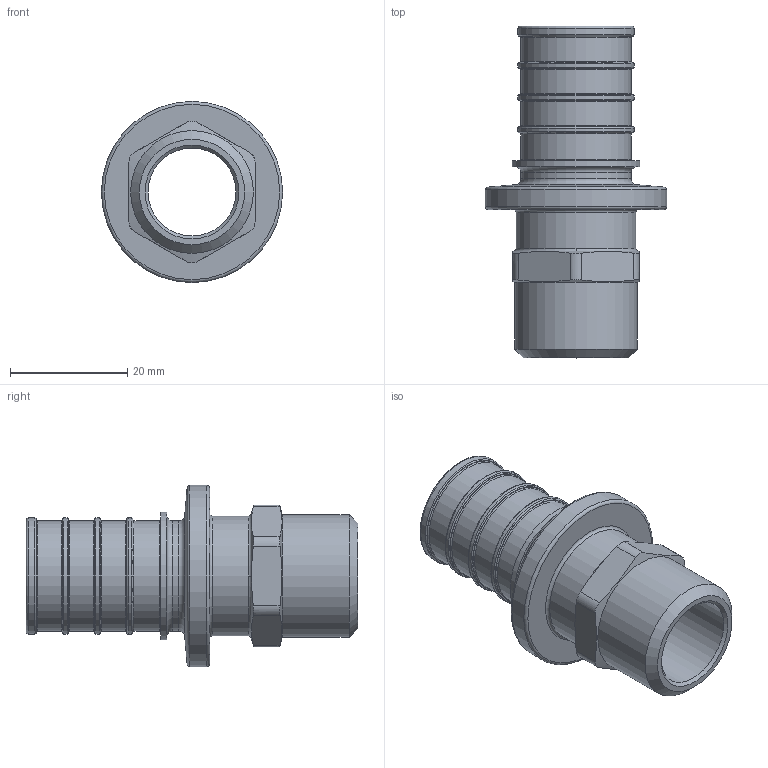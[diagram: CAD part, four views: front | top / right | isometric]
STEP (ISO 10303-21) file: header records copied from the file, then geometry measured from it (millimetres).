
FILE_DESCRIPTION(('STEP AP203'), '1');
FILE_NAME('ﾂﾐ.753137.008 - VTm.401.G.002504 ﾔ頸. 浯葢. G 1-2', '2024-01-23T12:59:22', ('IT'), ('VESTA'), 'C3D Converter', 'C3D Toolkit', '');
FILE_SCHEMA(('CONFIG_CONTROL_DESIGN'));
Length unit declared in the file: millimetre
Products named in the file (1): ВР.753137.008
Bounding box: 30.9 x 56.6 x 30.9 mm (x, y, z)
Volume: 9605.8 mm3; surface area: 7742.3 mm2
Topology: 1 solids, 1 shells, 67 faces, 136 edges, 81 vertices
Faces by surface type: torus 23, cylinder 20, plane 18, cone 6
Full cylindrical faces by diameter (mm): 15 x1, 18.8 x5, 19.8 x4, 20.4 x1, 20.955 x1, 21.8 x1, 30.9 x1
Entity records: 2490 total; most frequent: CARTESIAN_POINT 1221, DIRECTION 262, ORIENTED_EDGE 190, AXIS2_PLACEMENT_3D 125, EDGE_LOOP 120, EDGE_CURVE 95, VERTEX_POINT 81, FACE_OUTER_BOUND 78
